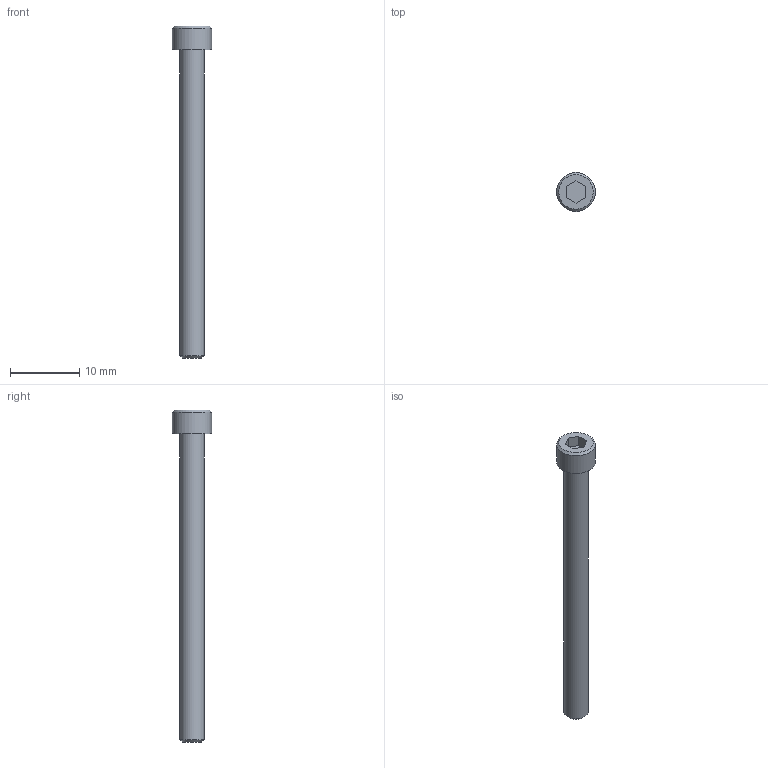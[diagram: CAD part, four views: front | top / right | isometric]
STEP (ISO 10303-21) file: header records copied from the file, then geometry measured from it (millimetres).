
FILE_DESCRIPTION((''),'2;1');
FILE_NAME('C:\Users\Stan\Desktop\import\SHCS 6-32 UNCx1.75.ipt.step','2011-08-18T17:44:48',(''),(''),'Autodesk Inventor 2012','Autodesk Inventor 2012','');
FILE_SCHEMA(('AUTOMOTIVE_DESIGN { 1 0 10303 214 1 1 1 1 }'));
Length unit declared in the file: inch
Products named in the file (1): SHCS 6-32 UNCx1.75
Bounding box: 5.64 x 5.64 x 47.9 mm (x, y, z)
Volume: 502.9 mm3; surface area: 610.4 mm2
Topology: 1 solids, 1 shells, 14 faces, 28 edges, 18 vertices
Faces by surface type: plane 10, cone 2, cylinder 2
Full cylindrical faces by diameter (mm): 3.505 x1, 5.639 x1
Entity records: 391 total; most frequent: DIRECTION 60, CARTESIAN_POINT 57, ORIENTED_EDGE 48, EDGE_CURVE 24, AXIS2_PLACEMENT_3D 21, EDGE_LOOP 20, VERTEX_POINT 18, VECTOR 18
